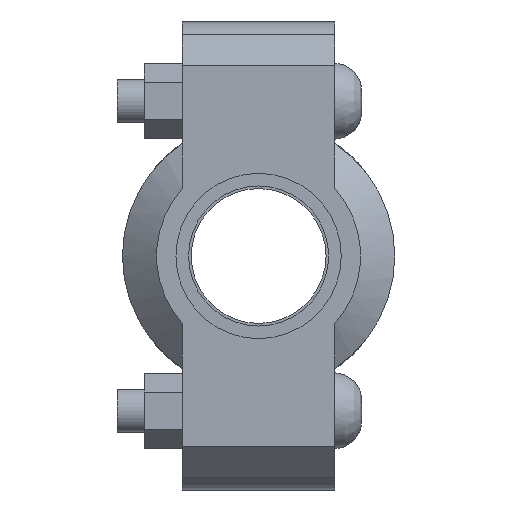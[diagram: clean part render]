
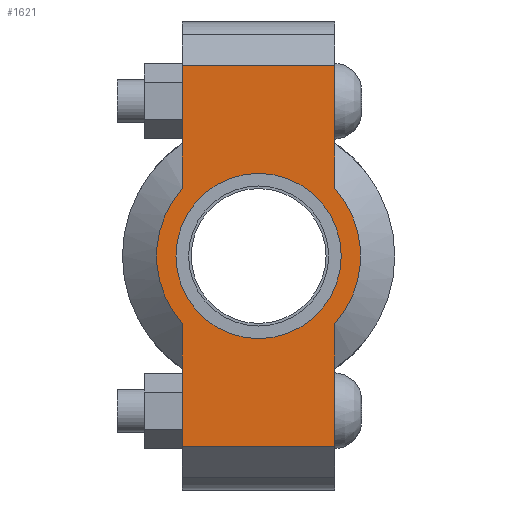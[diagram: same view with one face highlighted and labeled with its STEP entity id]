
A CAD part, left-side view. The second image highlights one B-rep face of the part: STEP entity #1621.
In plain terms, the highlighted planar face has unit normal (-1, 0, 0) as drawn and (0, 0, 1) by its records, which use the part's own axes.
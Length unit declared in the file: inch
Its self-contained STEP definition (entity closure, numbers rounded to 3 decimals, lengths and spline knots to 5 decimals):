
#176=LINE('',#2803,#273);
#191=LINE('',#2862,#288);
#199=LINE('',#2892,#296);
#201=LINE('',#2895,#298);
#202=LINE('',#2900,#299);
#203=LINE('',#2901,#300);
#273=VECTOR('',#2279,0.3937);
#288=VECTOR('',#2314,0.3937);
#296=VECTOR('',#2334,0.3937);
#298=VECTOR('',#2338,0.3937);
#299=VECTOR('',#2343,0.3937);
#300=VECTOR('',#2344,0.3937);
#364=FACE_BOUND('',#541,.T.);
#432=FACE_OUTER_BOUND('',#540,.T.);
#540=EDGE_LOOP('',(#1322,#1323,#1324,#1325,#1326,#1327,#1328,#1329));
#541=EDGE_LOOP('',(#1330));
#623=CIRCLE('',#1849,0.95);
#647=CIRCLE('',#1901,1.172);
#648=CIRCLE('',#1902,1.172);
#719=VERTEX_POINT('',#2629);
#760=VERTEX_POINT('',#2800);
#761=VERTEX_POINT('',#2802);
#782=VERTEX_POINT('',#2857);
#783=VERTEX_POINT('',#2861);
#792=VERTEX_POINT('',#2887);
#793=VERTEX_POINT('',#2891);
#794=VERTEX_POINT('',#2897);
#795=VERTEX_POINT('',#2899);
#883=EDGE_CURVE('',#719,#719,#623,.T.);
#940=EDGE_CURVE('',#761,#760,#176,.T.);
#965=EDGE_CURVE('',#783,#782,#191,.T.);
#978=EDGE_CURVE('',#793,#792,#199,.T.);
#980=EDGE_CURVE('',#793,#760,#201,.T.);
#981=EDGE_CURVE('',#792,#794,#647,.T.);
#982=EDGE_CURVE('',#794,#795,#202,.T.);
#983=EDGE_CURVE('',#783,#795,#203,.T.);
#984=EDGE_CURVE('',#782,#761,#648,.T.);
#1322=ORIENTED_EDGE('',*,*,#980,.F.);
#1323=ORIENTED_EDGE('',*,*,#978,.T.);
#1324=ORIENTED_EDGE('',*,*,#981,.T.);
#1325=ORIENTED_EDGE('',*,*,#982,.T.);
#1326=ORIENTED_EDGE('',*,*,#983,.F.);
#1327=ORIENTED_EDGE('',*,*,#965,.T.);
#1328=ORIENTED_EDGE('',*,*,#984,.T.);
#1329=ORIENTED_EDGE('',*,*,#940,.T.);
#1330=ORIENTED_EDGE('',*,*,#883,.T.);
#1461=PLANE('',#1900);
#1621=ADVANCED_FACE('',(#432,#364),#1461,.T.);
#1849=AXIS2_PLACEMENT_3D('',#2631,#2169,#2170);
#1900=AXIS2_PLACEMENT_3D('',#2896,#2339,#2340);
#1901=AXIS2_PLACEMENT_3D('',#2898,#2341,#2342);
#1902=AXIS2_PLACEMENT_3D('',#2902,#2345,#2346);
#2169=DIRECTION('center_axis',(0.,0.,-1.));
#2170=DIRECTION('ref_axis',(-1.,0.,0.));
#2279=DIRECTION('',(-1.,0.,0.));
#2314=DIRECTION('',(-1.,0.,0.));
#2334=DIRECTION('',(1.,0.,0.));
#2338=DIRECTION('',(0.,1.,0.));
#2339=DIRECTION('center_axis',(0.,0.,1.));
#2340=DIRECTION('ref_axis',(1.,0.,0.));
#2341=DIRECTION('center_axis',(0.,0.,1.));
#2342=DIRECTION('ref_axis',(-1.,0.,0.));
#2343=DIRECTION('',(1.,0.,0.));
#2344=DIRECTION('',(0.,-1.,0.));
#2345=DIRECTION('center_axis',(0.,0.,1.));
#2346=DIRECTION('ref_axis',(-1.,0.,0.));
#2629=CARTESIAN_POINT('',(0.95,0.,0.94));
#2631=CARTESIAN_POINT('Origin',(0.,0.,0.94));
#2800=CARTESIAN_POINT('',(-2.19,0.875,0.94));
#2802=CARTESIAN_POINT('',(-0.77972,0.875,0.94));
#2803=CARTESIAN_POINT('',(2.69,0.875,0.94));
#2857=CARTESIAN_POINT('',(0.77972,0.875,0.94));
#2861=CARTESIAN_POINT('',(2.19,0.875,0.94));
#2862=CARTESIAN_POINT('',(2.69,0.875,0.94));
#2887=CARTESIAN_POINT('',(-0.77972,-0.875,0.94));
#2891=CARTESIAN_POINT('',(-2.19,-0.875,0.94));
#2892=CARTESIAN_POINT('',(-2.69,-0.875,0.94));
#2895=CARTESIAN_POINT('',(-2.19,0.4375,0.94));
#2896=CARTESIAN_POINT('Origin',(0.,0.,0.94));
#2897=CARTESIAN_POINT('',(0.77972,-0.875,0.94));
#2898=CARTESIAN_POINT('Origin',(0.,0.,0.94));
#2899=CARTESIAN_POINT('',(2.19,-0.875,0.94));
#2900=CARTESIAN_POINT('',(-2.69,-0.875,0.94));
#2901=CARTESIAN_POINT('',(2.19,-0.4375,0.94));
#2902=CARTESIAN_POINT('Origin',(0.,0.,0.94));
